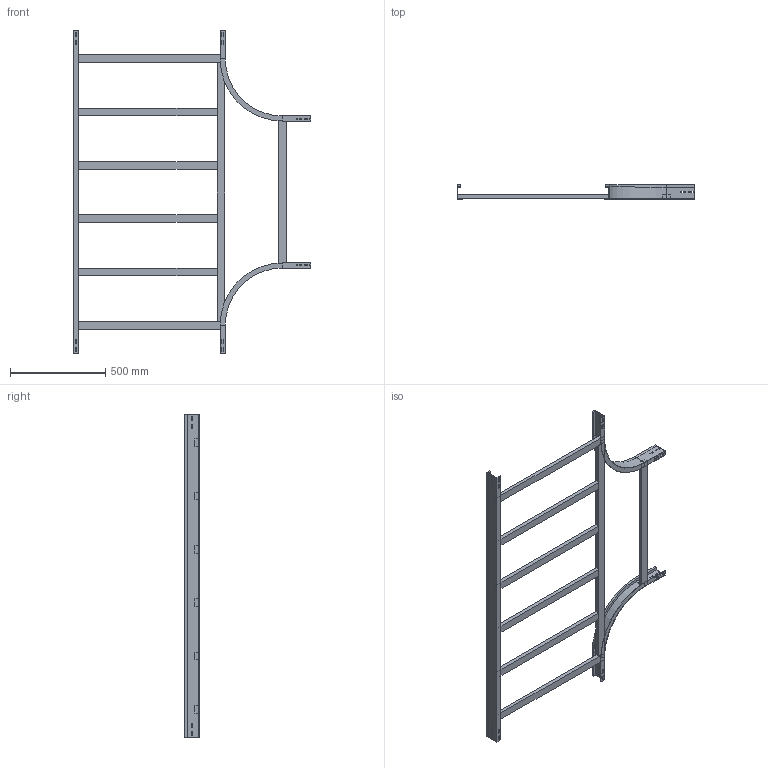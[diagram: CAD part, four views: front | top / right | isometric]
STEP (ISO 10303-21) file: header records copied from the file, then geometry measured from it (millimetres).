
FILE_DESCRIPTION (( 'STEP AP214' ), '1' );
FILE_NAME ('A2_15B3C800.step', '2025-02-21T15:53:27', ( '' ), ( '' ), 'SwSTEP 2.0', 'SolidWorks 2023', '' );
FILE_SCHEMA (( 'AUTOMOTIVE_DESIGN' ));
Length unit declared in the file: millimetre
Products named in the file (6): A2_LONGH.INTERNO 90°_H75_R300; TRAVERSINO_INTERMEDIO_R300+800; A2_15B3C800; TRAVERSINO_800; A2_TRAVERSINO_LONG._R300+800; A2_LONGH.RETT_H75_R300+800
Assembly tree (11 placements, depth 2):
  A2_15B3C800
    A2_LONGH.INTERNO 90°_H75_R300  x2
    A2_LONGH.RETT_H75_R300+800
    TRAVERSINO_800  x3
    A2_TRAVERSINO_LONG._R300+800
    TRAVERSINO_INTERMEDIO_R300+800  x4
Bounding box: 1250 x 75 x 1700 mm (x, y, z)
Volume: 6755735 mm3; surface area: 1599565.3 mm2
Topology: 11 solids, 11 shells, 206 faces, 520 edges, 336 vertices
Faces by surface type: plane 198, cylinder 8
Entity records: 3831 total; most frequent: CARTESIAN_POINT 640, ORIENTED_EDGE 616, DIRECTION 580, EDGE_CURVE 308, VECTOR 300, LINE 300, VERTEX_POINT 200, EDGE_LOOP 150
